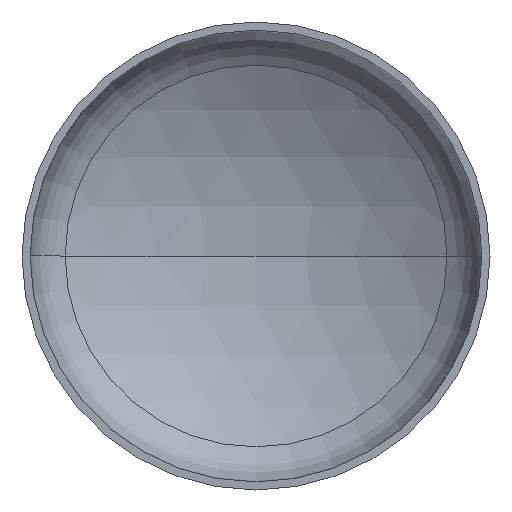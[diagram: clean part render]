
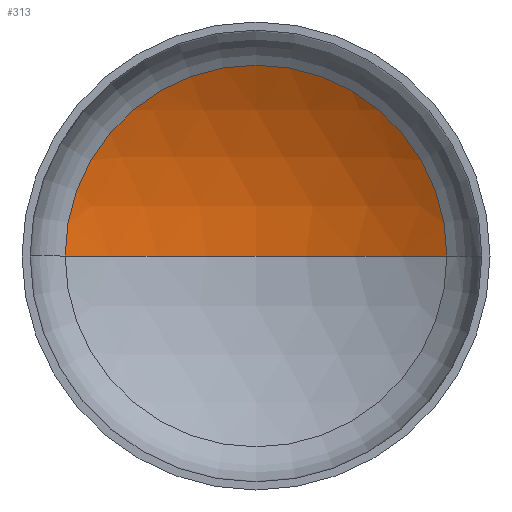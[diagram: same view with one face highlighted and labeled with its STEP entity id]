
A CAD part, front view. The second image highlights one B-rep face of the part: STEP entity #313.
In plain terms, the highlighted spherical face has radius 1520 mm.
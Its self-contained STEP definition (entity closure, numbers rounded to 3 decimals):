
#11 = AXIS2_PLACEMENT_3D ( 'NONE', #272, #61, #229 ) ;
#14 = AXIS2_PLACEMENT_3D ( 'NONE', #202, #363, #367 ) ;
#18 = AXIS2_PLACEMENT_3D ( 'NONE', #160, #161, #234 ) ;
#24 = AXIS2_PLACEMENT_3D ( 'NONE', #207, #220, #285 ) ;
#30 = EDGE_LOOP ( 'NONE', ( #206, #143, #135 ) ) ;
#36 = VERTEX_POINT ( 'NONE', #253 ) ;
#61 = DIRECTION ( 'NONE',  ( 0., 0., 1. ) ) ;
#99 = VERTEX_POINT ( 'NONE', #346 ) ;
#104 = CIRCLE ( 'NONE', #14, 1520. ) ;
#135 = ORIENTED_EDGE ( 'NONE', *, *, #339, .T. ) ;
#143 = ORIENTED_EDGE ( 'NONE', *, *, #347, .T. ) ;
#152 = VERTEX_POINT ( 'NONE', #224 ) ;
#160 = CARTESIAN_POINT ( 'NONE',  ( 0., 349.492, 0. ) ) ;
#161 = DIRECTION ( 'NONE',  ( 0., -1., 0. ) ) ;
#202 = CARTESIAN_POINT ( 'NONE',  ( 0., -958.192, 0. ) ) ;
#206 = ORIENTED_EDGE ( 'NONE', *, *, #352, .F. ) ;
#207 = CARTESIAN_POINT ( 'NONE',  ( 0., -958.192, 0. ) ) ;
#216 = FACE_OUTER_BOUND ( 'NONE', #30, .T. ) ;
#220 = DIRECTION ( 'NONE',  ( 0., 0., -1. ) ) ;
#224 = CARTESIAN_POINT ( 'NONE',  ( 0., 561.808, 0. ) ) ;
#229 = DIRECTION ( 'NONE',  ( 1., 0., 0. ) ) ;
#234 = DIRECTION ( 'NONE',  ( 1., 0., 0. ) ) ;
#253 = CARTESIAN_POINT ( 'NONE',  ( -774.829, 349.492, 0. ) ) ;
#272 = CARTESIAN_POINT ( 'NONE',  ( 0., -958.192, 0. ) ) ;
#285 = DIRECTION ( 'NONE',  ( -1., 0., 0. ) ) ;
#313 = ADVANCED_FACE ( 'NONE', ( #216 ), #398, .F. ) ;
#323 = CIRCLE ( 'NONE', #18, 774.829 ) ;
#339 = EDGE_CURVE ( 'NONE', #99, #36, #323, .T. ) ;
#346 = CARTESIAN_POINT ( 'NONE',  ( 774.829, 349.492, 0. ) ) ;
#347 = EDGE_CURVE ( 'NONE', #152, #99, #104, .T. ) ;
#352 = EDGE_CURVE ( 'NONE', #152, #36, #386, .T. ) ;
#363 = DIRECTION ( 'NONE',  ( 0., 0., -1. ) ) ;
#367 = DIRECTION ( 'NONE',  ( -1., 0., 0. ) ) ;
#386 = CIRCLE ( 'NONE', #11, 1520. ) ;
#398 = SPHERICAL_SURFACE ( 'NONE', #24, 1520. ) ;
